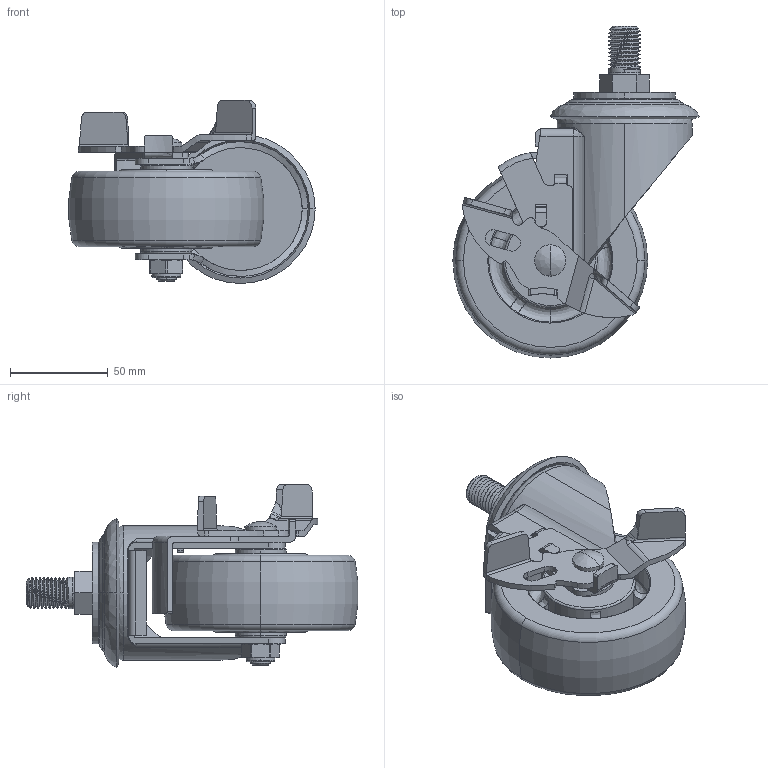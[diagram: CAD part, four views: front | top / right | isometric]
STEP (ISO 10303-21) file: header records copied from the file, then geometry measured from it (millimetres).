
FILE_DESCRIPTION (( 'STEP AP214' ), '1' );
FILE_NAME ('64144C-644-76 佪諳耜价.STEP', '2019-12-21T04:40:08', ( 'Owner' ), ( 'Organization' ), 'SwSTEP 2.0', 'SolidWorks 2014', '' );
FILE_SCHEMA (( 'AUTOMOTIVE_DESIGN' ));
Length unit declared in the file: millimetre
Products named in the file (10): 4渡耜价; 640-03 奻試俖_佪諳; 64144C-644-76 佪諳耜价; 644-76; 630-34; 6414-503; 640-23 佪諳; 644-323A 耜价; 6410-502A 耜价; 耜价陬蹟裝
Assembly tree (9 placements, depth 3):
  64144C-644-76 佪諳耜价
    640-23 佪諳
    4渡耜价
      640-03 奻試俖_佪諳
      630-34
      644-323A 耜价
      6410-502A 耜价
      6414-503
      耜价陬蹟裝
    644-76
Bounding box: 125.94 x 169.82 x 93.63 mm (x, y, z)
Volume: 357339.4 mm3; surface area: 103315.2 mm2
Topology: 8 solids, 8 shells, 441 faces, 1188 edges, 773 vertices
Faces by surface type: cylinder 147, plane 139, bspline 107, cone 30, torus 18
Entity records: 67708 total; most frequent: CARTESIAN_POINT 57004, ORIENTED_EDGE 2372, DIRECTION 1925, EDGE_CURVE 1186, VERTEX_POINT 773, AXIS2_PLACEMENT_3D 747, EDGE_LOOP 471, FACE_OUTER_BOUND 441
